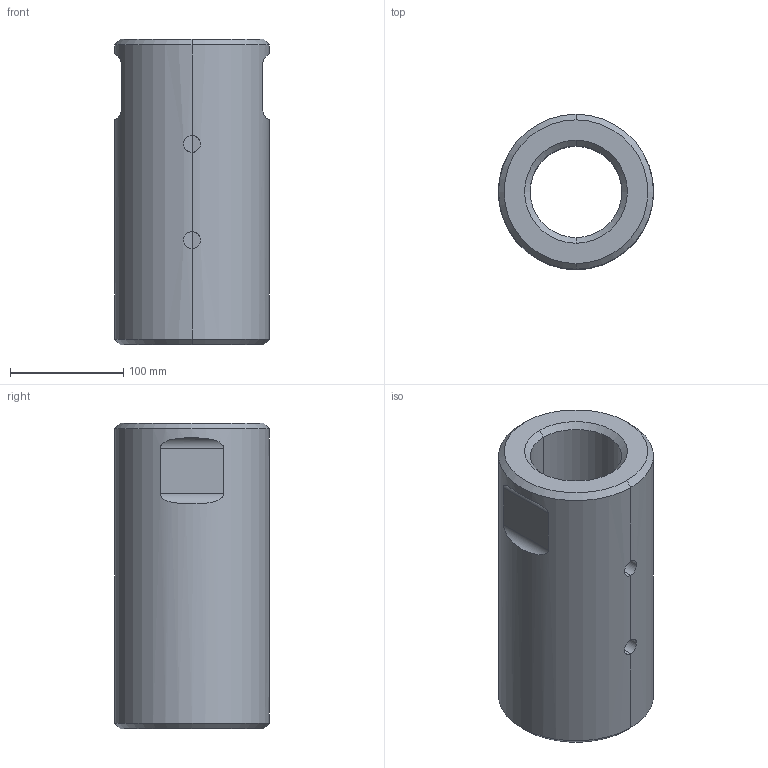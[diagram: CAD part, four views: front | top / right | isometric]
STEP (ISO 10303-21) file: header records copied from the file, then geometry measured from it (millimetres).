
FILE_DESCRIPTION (( 'STEP AP203' ), '1' );
FILE_NAME ('Spannschloss M85.STEP', '2018-02-22T10:04:16', ( 'install' ), ( 'Hewlett-Packard Company' ), 'SwSTEP 2.0', 'SolidWorks 2017', '' );
FILE_SCHEMA (( 'CONFIG_CONTROL_DESIGN' ));
Length unit declared in the file: millimetre
Products named in the file (1): Spannschloss M85
Bounding box: 137 x 137 x 270 mm (x, y, z)
Volume: 2460153.8 mm3; surface area: 205348.3 mm2
Topology: 1 solids, 1 shells, 30 faces, 66 edges, 38 vertices
Faces by surface type: cylinder 16, cone 8, plane 6
Entity records: 1457 total; most frequent: CARTESIAN_POINT 717, DIRECTION 140, ORIENTED_EDGE 132, EDGE_CURVE 66, AXIS2_PLACEMENT_3D 55, VERTEX_POINT 38, EDGE_LOOP 36, FACE_OUTER_BOUND 30
